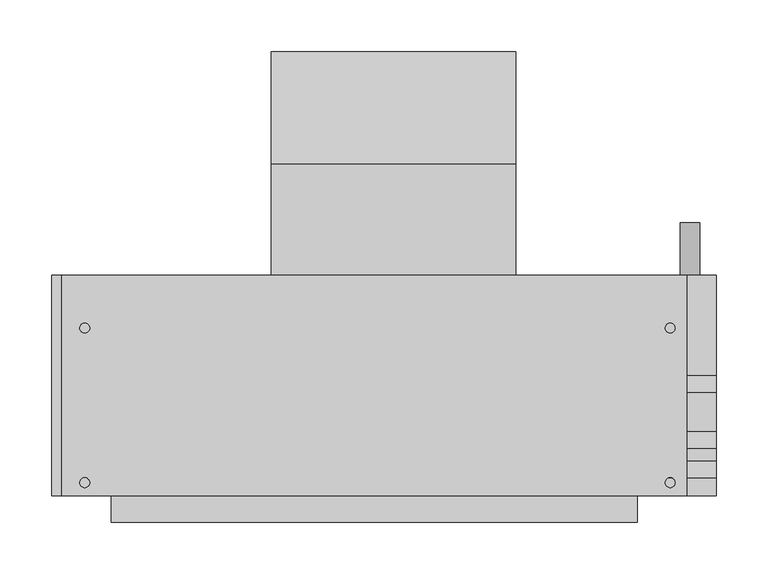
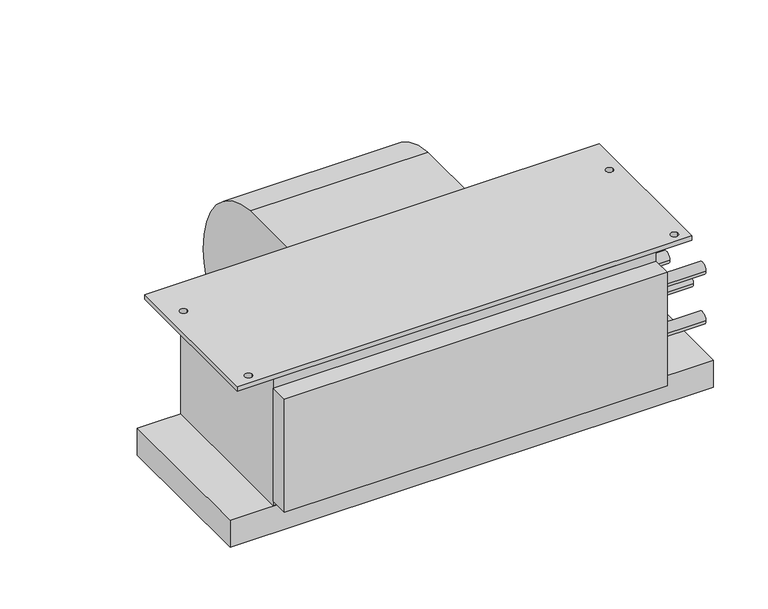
"""IFC4 building model written with IfcOpenShell, lengths in millimetres: proxy geometry, Concealed_Horizontal_Fan_Coil_Unit_-_42CAA_-_CARRIER_-_4-Pipe_RH_2022 : Size 03 - 277v/60Hz/1Ph - 4/1 Coil."""

from ifc_helpers import new_model, si_unit, point, frame, frame_2d, origin, place, context, project, spatial, polyline, circle_curve, trimmed, segment, composite_curve, outline, extrude, source, transform, mapped, element, save


def mechanical_equipment_ed30026a(model_context):
    return source(origin(), model_context, "Body", "SweptSolid", [
        extrude(outline(composite_curve([segment(trimmed(circle_curve(frame_2d((-33.198831, -136.0299844)), 117.3559541), [point((-23.8125, -19.05))], [point((84.1375, -138.176))], False, "CARTESIAN"), True, "CONTINUOUS"), segment(trimmed(circle_curve(frame_2d((-11.5977337, -136.4250563)), 95.7512443), [point((84.1375, -138.176))], [point((-23.8125, -231.394))], False, "CARTESIAN"), True, "CONTINUOUS"), segment(trimmed(circle_curve(frame_2d((-11.6288131, -136.6666968)), 95.5076133), [point((-23.8125, -231.394))], [point((-107.1245, -138.176))], False, "CARTESIAN"), True, "CONTINUOUS"), segment(trimmed(circle_curve(frame_2d((-126.2059828, -138.4775816)), 19.0838659), [point((-107.1245, -138.176))], [point((-119.3963373, -120.65))], True, "CARTESIAN"), True, "CONTINUOUS"), segment(polyline([(-119.3963373, -120.65), (-131.7625, -120.65), (-131.7625, -19.05), (-23.8125, -19.05)]), True, "CONTINUOUS")], self_intersect=False)), frame((53.213, 0.0, 0.0), z_axis=(1.0, 0.0, 0.0), x_axis=(0.0, 1.0, 0.0)), (0.0, 0.0, 1.0), 235.712),
        extrude(outline(polyline([(454.025, -131.7625), (454.025, -344.4875), (-149.225, -344.4875), (-149.225, -131.7625), (454.025, -131.7625)]), holes=[composite_curve([segment(trimmed(circle_curve(frame_2d((-127.0, -182.5625)), 4.7625), [point((-131.7625, -182.5625))], [point((-122.2375, -182.5625))], True, "CARTESIAN"), True, "CONTINUOUS"), segment(trimmed(circle_curve(frame_2d((-127.0, -182.5625)), 4.7625), [point((-122.2375, -182.5625))], [point((-131.7625, -182.5625))], True, "CARTESIAN"), True, "CONTINUOUS")], self_intersect=False), composite_curve([segment(trimmed(circle_curve(frame_2d((-127.0, -331.7875)), 4.7625), [point((-131.7625, -331.7875))], [point((-122.2375, -331.7875))], True, "CARTESIAN"), True, "CONTINUOUS"), segment(trimmed(circle_curve(frame_2d((-127.0, -331.7875)), 4.7625), [point((-122.2375, -331.7875))], [point((-131.7625, -331.7875))], True, "CARTESIAN"), True, "CONTINUOUS")], self_intersect=False), composite_curve([segment(trimmed(circle_curve(frame_2d((438.15, -182.5625)), 4.7625), [point((433.3875, -182.5625))], [point((442.9125, -182.5625))], True, "CARTESIAN"), True, "CONTINUOUS"), segment(trimmed(circle_curve(frame_2d((438.15, -182.5625)), 4.7625), [point((442.9125, -182.5625))], [point((433.3875, -182.5625))], True, "CARTESIAN"), True, "CONTINUOUS")], self_intersect=False), composite_curve([segment(trimmed(circle_curve(frame_2d((438.15, -331.7875)), 4.7625), [point((433.3875, -331.7875))], [point((442.9125, -331.7875))], True, "CARTESIAN"), True, "CONTINUOUS"), segment(trimmed(circle_curve(frame_2d((438.15, -331.7875)), 4.7625), [point((442.9125, -331.7875))], [point((433.3875, -331.7875))], True, "CARTESIAN"), True, "CONTINUOUS")], self_intersect=False)]), frame((0.0, 0.0, -6.35), z_axis=(0.0, 0.0, 1.0), x_axis=(1.0, 0.0, 0.0)), (0.0, 0.0, 1.0), 6.35),
        extrude(outline(composite_curve([segment(trimmed(circle_curve(frame_2d((-209.55, 457.2)), 9.525), [point((-209.55, 447.675))], [point((-209.55, 466.725))], False, "CARTESIAN"), True, "CONTINUOUS"), segment(trimmed(circle_curve(frame_2d((-209.55, 457.2)), 9.525), [point((-209.55, 466.725))], [point((-209.55, 447.675))], False, "CARTESIAN"), True, "CONTINUOUS")], self_intersect=False)), frame((0.0, -131.7625, 0.0), z_axis=(0.0, 1.0, 0.0), x_axis=(0.0, 0.0, 1.0)), (0.0, 0.0, 1.0), 50.8),
        extrude(outline(polyline([(406.4, -369.8875), (-101.6, -369.8875), (-101.6, -344.4875), (406.4, -344.4875), (406.4, -369.8875)])), frame((0.0, 0.0, -177.8), z_axis=(0.0, 0.0, 1.0), x_axis=(1.0, 0.0, 0.0)), (0.0, 0.0, 1.0), 158.75),
        extrude(outline(polyline([(482.6, -131.7625), (482.6, -344.4875), (-158.75, -344.4875), (-158.75, -131.7625), (482.6, -131.7625)])), frame((0.0, 0.0, -222.25), z_axis=(0.0, 0.0, 1.0), x_axis=(1.0, 0.0, 0.0)), (0.0, 0.0, 1.0), 38.1),
        extrude(outline(composite_curve([segment(trimmed(circle_curve(frame_2d((-236.5375, -104.775)), 7.9375), [point((-244.475, -104.775))], [point((-228.6, -104.775))], False, "CARTESIAN"), True, "CONTINUOUS"), segment(trimmed(circle_curve(frame_2d((-236.5375, -104.775)), 7.9375), [point((-228.6, -104.775))], [point((-244.475, -104.775))], False, "CARTESIAN"), True, "CONTINUOUS")], self_intersect=False)), frame((406.4, 0.0, 0.0), z_axis=(1.0, 0.0, 0.0), x_axis=(0.0, 1.0, 0.0)), (0.0, 0.0, 1.0), 76.2),
        extrude(outline(composite_curve([segment(trimmed(circle_curve(frame_2d((-290.5125, -104.775)), 7.9375), [point((-298.45, -104.775))], [point((-282.575, -104.775))], False, "CARTESIAN"), True, "CONTINUOUS"), segment(trimmed(circle_curve(frame_2d((-290.5125, -104.775)), 7.9375), [point((-282.575, -104.775))], [point((-298.45, -104.775))], False, "CARTESIAN"), True, "CONTINUOUS")], self_intersect=False)), frame((406.4, 0.0, 0.0), z_axis=(1.0, 0.0, 0.0), x_axis=(0.0, 1.0, 0.0)), (0.0, 0.0, 1.0), 76.2),
        extrude(outline(composite_curve([segment(trimmed(circle_curve(frame_2d((-319.0875, -69.85)), 7.9375), [point((-327.025, -69.85))], [point((-311.15, -69.85))], False, "CARTESIAN"), True, "CONTINUOUS"), segment(trimmed(circle_curve(frame_2d((-319.0875, -69.85)), 7.9375), [point((-311.15, -69.85))], [point((-327.025, -69.85))], False, "CARTESIAN"), True, "CONTINUOUS")], self_intersect=False)), frame((406.4, 0.0, 0.0), z_axis=(1.0, 0.0, 0.0), x_axis=(0.0, 1.0, 0.0)), (0.0, 0.0, 1.0), 76.2),
        extrude(outline(composite_curve([segment(trimmed(circle_curve(frame_2d((-319.0875, -139.7)), 7.9375), [point((-327.025, -139.7))], [point((-311.15, -139.7))], False, "CARTESIAN"), True, "CONTINUOUS"), segment(trimmed(circle_curve(frame_2d((-319.0875, -139.7)), 7.9375), [point((-311.15, -139.7))], [point((-327.025, -139.7))], False, "CARTESIAN"), True, "CONTINUOUS")], self_intersect=False)), frame((406.4, 0.0, 0.0), z_axis=(1.0, 0.0, 0.0), x_axis=(0.0, 1.0, 0.0)), (0.0, 0.0, 1.0), 76.2),
        extrude(outline(polyline([(406.4, -344.4875), (-101.6, -344.4875), (-101.6, -131.7625), (406.4, -131.7625), (406.4, -344.4875)])), frame((0.0, 0.0, -184.15), z_axis=(0.0, 0.0, 1.0), x_axis=(1.0, 0.0, 0.0)), (0.0, 0.0, 1.0), 177.8),
    ])


if __name__ == "__main__":
    model = new_model("IFC4")
    model_context = context("Model", 3, world=origin())
    ifc_project = project(units=[si_unit("LENGTHUNIT", "METRE", prefix="MILLI")], contexts=[model_context])
    site = spatial("IfcSite", under=ifc_project)
    building = spatial("IfcBuilding", under=site)
    placement = place(None, origin())
    mechanical_equipment_shape = mechanical_equipment_ed30026a(model_context)
    element("IfcBuildingElementProxy", 1, Name="Concealed_Horizontal_Fan_Coil_Unit_-_42CAA_-_CARRIER_-_4-Pipe_RH_2022 : Size 03 - 277v/60Hz/1Ph - 4/1 Coil", ObjectType="Concealed_Horizontal_Fan_Coil_Unit_-_42CAA_-_CARRIER_-_4-Pipe_RH_2022 : Size 03 - 277v/60Hz/1Ph - 4/1 Coil", at=placement, inside=building, context=model_context, shape_type="MappedRepresentation", body=[
        mapped(mechanical_equipment_shape, transform((0.0, 0.0, 0.0), x_axis=(1.0, 0.0, 0.0), y_axis=(0.0, 1.0, 0.0), z_axis=(0.0, 0.0, 1.0))),
    ])
    save(model, "model.ifc")
